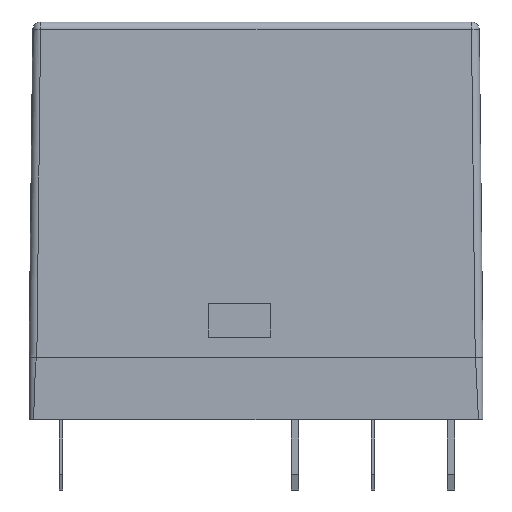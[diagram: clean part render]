
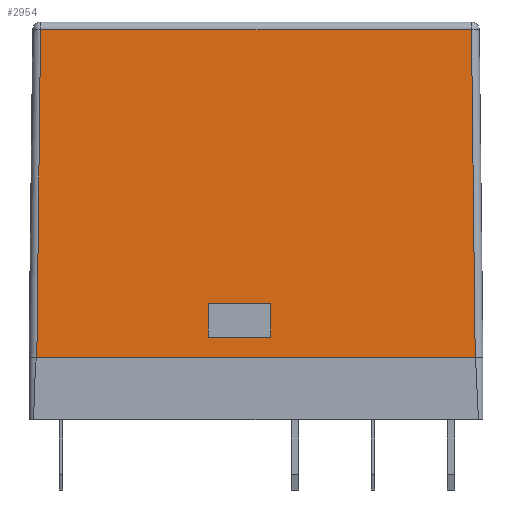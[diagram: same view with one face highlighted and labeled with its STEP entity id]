
A CAD part, left-side view. The second image highlights one B-rep face of the part: STEP entity #2954.
In plain terms, the highlighted planar face has unit normal (-1, 0, 0.011).
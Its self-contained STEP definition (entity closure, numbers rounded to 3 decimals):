
#85 = LINE ( 'NONE', #3585, #3166 ) ;
#88 = CARTESIAN_POINT ( 'NONE',  ( 0.039, 13.6, 11.95 ) ) ;
#143 = ORIENTED_EDGE ( 'NONE', *, *, #3544, .T. ) ;
#159 = ORIENTED_EDGE ( 'NONE', *, *, #3381, .T. ) ;
#177 = FACE_OUTER_BOUND ( 'NONE', #1209, .T. ) ;
#209 = ORIENTED_EDGE ( 'NONE', *, *, #1665, .T. ) ;
#232 = DIRECTION ( 'NONE',  ( 0., 1., 0. ) ) ;
#239 = CARTESIAN_POINT ( 'NONE',  ( 0., 17.6, 8.5 ) ) ;
#269 = CARTESIAN_POINT ( 'NONE',  ( 0.238, 0.738, 29.506 ) ) ;
#298 = VERTEX_POINT ( 'NONE', #1433 ) ;
#307 = ORIENTED_EDGE ( 'NONE', *, *, #3422, .T. ) ;
#358 = VECTOR ( 'NONE', #1128, 1000. ) ;
#383 = VERTEX_POINT ( 'NONE', #530 ) ;
#501 = LINE ( 'NONE', #2302, #358 ) ;
#523 = VERTEX_POINT ( 'NONE', #88 ) ;
#530 = CARTESIAN_POINT ( 'NONE',  ( 0.015, 13.6, 9.8 ) ) ;
#540 = EDGE_CURVE ( 'NONE', #3435, #523, #2470, .T. ) ;
#591 = LINE ( 'NONE', #239, #1653 ) ;
#739 = ORIENTED_EDGE ( 'NONE', *, *, #1889, .T. ) ;
#746 = EDGE_CURVE ( 'NONE', #298, #3722, #3255, .T. ) ;
#781 = EDGE_LOOP ( 'NONE', ( #3755, #307, #209, #143 ) ) ;
#794 = LINE ( 'NONE', #821, #3148 ) ;
#821 = CARTESIAN_POINT ( 'NONE',  ( 0., 28.6, 8.494 ) ) ;
#846 = LINE ( 'NONE', #3572, #3564 ) ;
#1071 = DIRECTION ( 'NONE',  ( -1., 0., 0.011 ) ) ;
#1113 = DIRECTION ( 'NONE',  ( -0.011, 0.011, -1. ) ) ;
#1128 = DIRECTION ( 'NONE',  ( -0.011, 0., -1. ) ) ;
#1151 = CARTESIAN_POINT ( 'NONE',  ( 0., 29.1, 8.503 ) ) ;
#1209 = EDGE_LOOP ( 'NONE', ( #739, #2867, #2012, #159 ) ) ;
#1371 = EDGE_CURVE ( 'NONE', #3722, #1954, #85, .T. ) ;
#1408 = CARTESIAN_POINT ( 'NONE',  ( 0., 29.1, 8.5 ) ) ;
#1433 = CARTESIAN_POINT ( 'NONE',  ( 0., 0.498, 8.499 ) ) ;
#1440 = VECTOR ( 'NONE', #3390, 1000. ) ;
#1574 = CARTESIAN_POINT ( 'NONE',  ( 0.039, 29.1, 11.95 ) ) ;
#1575 = VECTOR ( 'NONE', #3474, 1000. ) ;
#1653 = VECTOR ( 'NONE', #2681, 1000. ) ;
#1665 = EDGE_CURVE ( 'NONE', #383, #2950, #846, .T. ) ;
#1677 = CARTESIAN_POINT ( 'NONE',  ( 0.039, 17.6, 11.95 ) ) ;
#1835 = CARTESIAN_POINT ( 'NONE',  ( 0.004, 0.504, 8.824 ) ) ;
#1889 = EDGE_CURVE ( 'NONE', #3376, #298, #2583, .T. ) ;
#1938 = PLANE ( 'NONE',  #2124 ) ;
#1954 = VERTEX_POINT ( 'NONE', #2473 ) ;
#1967 = CARTESIAN_POINT ( 'NONE',  ( 0., 28.6, 8.503 ) ) ;
#2012 = ORIENTED_EDGE ( 'NONE', *, *, #1371, .T. ) ;
#2124 = AXIS2_PLACEMENT_3D ( 'NONE', #1408, #1071, #3387 ) ;
#2302 = CARTESIAN_POINT ( 'NONE',  ( 0., 13.6, 8.5 ) ) ;
#2470 = LINE ( 'NONE', #1574, #1440 ) ;
#2473 = CARTESIAN_POINT ( 'NONE',  ( 0.238, 28.362, 29.506 ) ) ;
#2583 = LINE ( 'NONE', #1151, #1575 ) ;
#2681 = DIRECTION ( 'NONE',  ( 0.011, 0., 1. ) ) ;
#2739 = DIRECTION ( 'NONE',  ( 0.011, 0.011, 1. ) ) ;
#2867 = ORIENTED_EDGE ( 'NONE', *, *, #746, .T. ) ;
#2869 = FACE_BOUND ( 'NONE', #781, .T. ) ;
#2950 = VERTEX_POINT ( 'NONE', #3124 ) ;
#2954 = ADVANCED_FACE ( 'NONE', ( #2869, #177 ), #1938, .T. ) ;
#3028 = DIRECTION ( 'NONE',  ( 0., 1., 0. ) ) ;
#3124 = CARTESIAN_POINT ( 'NONE',  ( 0.015, 17.6, 9.8 ) ) ;
#3148 = VECTOR ( 'NONE', #1113, 1000. ) ;
#3166 = VECTOR ( 'NONE', #3028, 1000. ) ;
#3255 = LINE ( 'NONE', #1835, #3301 ) ;
#3301 = VECTOR ( 'NONE', #2739, 1000. ) ;
#3376 = VERTEX_POINT ( 'NONE', #1967 ) ;
#3381 = EDGE_CURVE ( 'NONE', #1954, #3376, #794, .T. ) ;
#3387 = DIRECTION ( 'NONE',  ( -0.011, 0., -1. ) ) ;
#3390 = DIRECTION ( 'NONE',  ( 0., -1., 0. ) ) ;
#3422 = EDGE_CURVE ( 'NONE', #523, #383, #501, .T. ) ;
#3435 = VERTEX_POINT ( 'NONE', #1677 ) ;
#3474 = DIRECTION ( 'NONE',  ( 0., -1., 0. ) ) ;
#3544 = EDGE_CURVE ( 'NONE', #2950, #3435, #591, .T. ) ;
#3564 = VECTOR ( 'NONE', #232, 1000. ) ;
#3572 = CARTESIAN_POINT ( 'NONE',  ( 0.015, 29.1, 9.8 ) ) ;
#3585 = CARTESIAN_POINT ( 'NONE',  ( 0.238, 28.856, 29.506 ) ) ;
#3722 = VERTEX_POINT ( 'NONE', #269 ) ;
#3755 = ORIENTED_EDGE ( 'NONE', *, *, #540, .T. ) ;
